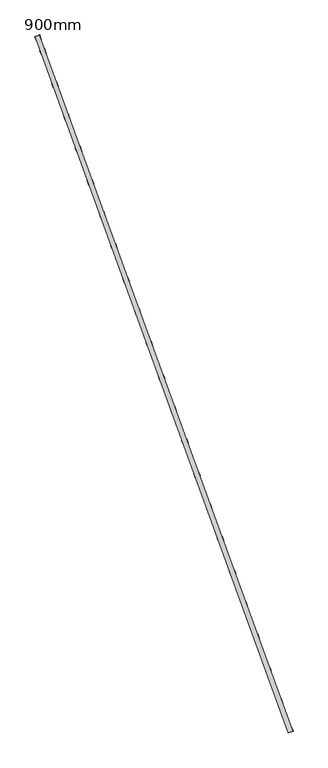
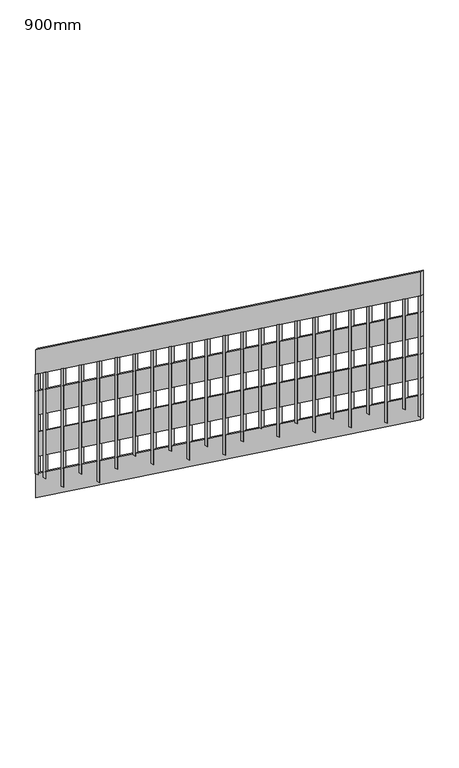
"""IFC4 building model written with IfcOpenShell, lengths in millimetres: railing geometry, 900mm."""

from ifc_helpers import new_model, si_unit, frame, origin, place, context, project, spatial, polyline, outline, extrude, source, transform, mapped, element, save


def railing_900mm_28b1f124(model_context):
    return source(origin(), model_context, "Body", "SweptSolid", [
        extrude(outline(polyline([(94.72, -148.0), (0.0, 0.0), (3561.7972992, 0.0), (3656.5172991, -148.0), (94.72, -148.0)])), frame((24325.4518631, 10549.1529963, 4984.2846666), z_axis=(0.93969262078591, 0.3420201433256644, 0.0), x_axis=(0.2880737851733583, -0.7914762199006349, 0.5390536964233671)), (0.0, 0.0, 1.0), 19.0),
        extrude(outline(polyline([(94.72, -148.0), (0.0, 0.0), (3561.7972992, 0.0), (3656.5172991, -148.0), (94.72, -148.0)])), frame((24325.4518631, 10549.1529963, 4684.2846666), z_axis=(0.93969262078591, 0.34202014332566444, 0.0), x_axis=(0.2880737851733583, -0.7914762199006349, 0.5390536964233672)), (0.0, 0.0, 1.0), 19.0),
        extrude(outline(polyline([(94.72, -148.0), (0.0, 0.0), (3561.7972992, 0.0), (3656.5172991, -148.0), (94.72, -148.0)])), frame((24325.4518631, 10549.1529963, 4384.2846666), z_axis=(0.93969262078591, 0.34202014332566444, 0.0), x_axis=(0.2880737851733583, -0.7914762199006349, 0.5390536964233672)), (0.0, 0.0, 1.0), 19.0),
        extrude(outline(polyline([(94.72, -148.0), (0.0, 0.0), (3561.7972992, 0.0), (3656.5172991, -148.0), (94.72, -148.0)])), frame((24325.4518631, 10549.1529963, 4084.2846666), z_axis=(0.93969262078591, 0.34202014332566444, 0.0), x_axis=(0.2880737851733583, -0.7914762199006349, 0.5390536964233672)), (0.0, 0.0, 1.0), 19.0),
        extrude(outline(polyline([(106.4, 0.0), (901.0846666, 0.0), (901.0846666, -20.0), (93.6, -20.0), (106.4, 0.0)])), frame((25303.1596267, 7861.4610908, 6921.0846666), z_axis=(0.9396926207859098, 0.34202014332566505, 0.0), x_axis=(0.0, 0.0, -1.0)), (0.0, 0.0, 1.0), 20.0),
        extrude(outline(polyline([(106.4, 0.0), (971.4846666, 0.0), (971.4846666, -20.0), (93.6, -20.0), (106.4, 0.0)])), frame((25255.2768066, 7993.0180577, 6831.4846666), z_axis=(0.9396926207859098, 0.34202014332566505, 0.0), x_axis=(0.0, 0.0, -1.0)), (0.0, 0.0, 1.0), 20.0),
        extrude(outline(polyline([(106.4, 0.0), (881.8846666, 0.0), (881.8846666, -20.0), (93.6, -20.0), (106.4, 0.0)])), frame((25207.3939866, 8124.5750246, 6741.8846666), z_axis=(0.9396926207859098, 0.34202014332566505, 0.0), x_axis=(0.0, 0.0, -1.0)), (0.0, 0.0, 1.0), 20.0),
        extrude(outline(polyline([(106.4, 0.0), (952.2846666, 0.0), (952.2846666, -20.0), (93.6, -20.0), (106.4, 0.0)])), frame((25159.5111665, 8256.1319915, 6652.2846666), z_axis=(0.9396926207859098, 0.34202014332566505, 0.0), x_axis=(0.0, 0.0, -1.0)), (0.0, 0.0, 1.0), 20.0),
        extrude(outline(polyline([(106.4, 0.0), (862.6846666, 0.0), (862.6846666, -20.0), (93.6, -20.0), (106.4, 0.0)])), frame((25111.6283464, 8387.6889584, 6562.6846666), z_axis=(0.9396926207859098, 0.34202014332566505, 0.0), x_axis=(0.0, 0.0, -1.0)), (0.0, 0.0, 1.0), 20.0),
        extrude(outline(polyline([(106.4, 0.0), (933.0846666, 0.0), (933.0846666, -20.0), (93.6, -20.0), (106.4, 0.0)])), frame((25063.7455264, 8519.2459253, 6473.0846666), z_axis=(0.9396926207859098, 0.34202014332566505, 0.0), x_axis=(0.0, 0.0, -1.0)), (0.0, 0.0, 1.0), 20.0),
        extrude(outline(polyline([(106.4, 0.0), (843.4846666, 0.0), (843.4846666, -20.0), (93.6, -20.0), (106.4, 0.0)])), frame((25015.8627063, 8650.8028922, 6383.4846666), z_axis=(0.9396926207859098, 0.34202014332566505, 0.0), x_axis=(0.0, 0.0, -1.0)), (0.0, 0.0, 1.0), 20.0),
        extrude(outline(polyline([(106.4, 0.0), (913.8846666, 0.0), (913.8846666, -20.0000001), (93.6, -20.0000001), (106.4, 0.0)])), frame((24967.9798863, 8782.3598592, 6293.8846666), z_axis=(0.9396926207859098, 0.34202014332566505, 0.0), x_axis=(0.0, 0.0, -1.0)), (0.0, 0.0, 1.0), 20.0),
        extrude(outline(polyline([(106.4, 0.0), (824.2846666, 0.0), (824.2846666, -20.0000001), (93.6, -20.0000001), (106.4, 0.0)])), frame((24920.0970662, 8913.9168261, 6204.2846666), z_axis=(0.9396926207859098, 0.34202014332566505, 0.0), x_axis=(0.0, 0.0, -1.0)), (0.0, 0.0, 1.0), 20.0),
        extrude(outline(polyline([(106.4, 0.0), (894.6846666, 0.0), (894.6846666, -20.0), (93.6, -20.0), (106.4, 0.0)])), frame((24872.2142461, 9045.473793, 6114.6846666), z_axis=(0.9396926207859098, 0.34202014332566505, 0.0), x_axis=(0.0, 0.0, -1.0)), (0.0, 0.0, 1.0), 20.0),
        extrude(outline(polyline([(106.4, 0.0), (965.0846666, 0.0), (965.0846666, -20.0), (93.6, -20.0), (106.4, 0.0)])), frame((24824.3314261, 9177.0307599, 6025.0846666), z_axis=(0.9396926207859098, 0.34202014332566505, 0.0), x_axis=(0.0, 0.0, -1.0)), (0.0, 0.0, 1.0), 20.0),
        extrude(outline(polyline([(106.4, 0.0), (875.4846666, 0.0), (875.4846666, -20.0), (93.6, -20.0), (106.4, 0.0)])), frame((24776.448606, 9308.5877268, 5935.4846666), z_axis=(0.9396926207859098, 0.34202014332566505, 0.0), x_axis=(0.0, 0.0, -1.0)), (0.0, 0.0, 1.0), 20.0),
        extrude(outline(polyline([(106.4, 0.0), (945.8846666, 0.0), (945.8846666, -20.0), (93.6, -20.0), (106.4, 0.0)])), frame((24728.5657859, 9440.1446937, 5845.8846666), z_axis=(0.9396926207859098, 0.34202014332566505, 0.0), x_axis=(0.0, 0.0, -1.0)), (0.0, 0.0, 1.0), 20.0),
        extrude(outline(polyline([(106.4, 0.0), (856.2846666, 0.0), (856.2846666, -20.0), (93.6, -20.0), (106.4, 0.0)])), frame((24680.6829659, 9571.7016606, 5756.2846666), z_axis=(0.9396926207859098, 0.34202014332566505, 0.0), x_axis=(0.0, 0.0, -1.0)), (0.0, 0.0, 1.0), 20.0),
        extrude(outline(polyline([(106.4, 0.0), (926.6846666, 0.0), (926.6846666, -20.0), (93.6, -20.0), (106.4, 0.0)])), frame((24632.8001458, 9703.2586275, 5666.6846666), z_axis=(0.9396926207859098, 0.34202014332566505, 0.0), x_axis=(0.0, 0.0, -1.0)), (0.0, 0.0, 1.0), 20.0),
        extrude(outline(polyline([(106.4, 0.0), (837.0846666, 0.0), (837.0846666, -20.0), (93.6, -20.0), (106.4, 0.0)])), frame((24584.9173257, 9834.8155944, 5577.0846666), z_axis=(0.9396926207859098, 0.34202014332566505, 0.0), x_axis=(0.0, 0.0, -1.0)), (0.0, 0.0, 1.0), 20.0),
        extrude(outline(polyline([(106.4, 0.0), (907.4846666, 0.0), (907.4846666, -20.0), (93.6, -20.0), (106.4, 0.0)])), frame((24537.0345057, 9966.3725613, 5487.4846666), z_axis=(0.9396926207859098, 0.34202014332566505, 0.0), x_axis=(0.0, 0.0, -1.0)), (0.0, 0.0, 1.0), 20.0),
        extrude(outline(polyline([(106.4, 0.0), (977.8846666, 0.0), (977.8846666, -20.0000001), (93.6, -20.0000001), (106.4, 0.0)])), frame((24489.1516856, 10097.9295283, 5397.8846666), z_axis=(0.9396926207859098, 0.34202014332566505, 0.0), x_axis=(0.0, 0.0, -1.0)), (0.0, 0.0, 1.0), 20.0),
        extrude(outline(polyline([(106.4, 0.0), (888.2846666, 0.0), (888.2846666, -20.0000001), (93.6, -20.0000001), (106.4, 0.0)])), frame((24441.2688655, 10229.4864952, 5308.2846666), z_axis=(0.9396926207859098, 0.34202014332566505, 0.0), x_axis=(0.0, 0.0, -1.0)), (0.0, 0.0, 1.0), 20.0),
        extrude(outline(polyline([(106.4, 0.0), (958.6846666, 0.0), (958.6846666, -20.0), (93.6, -20.0), (106.4, 0.0)])), frame((24393.3860455, 10361.0434621, 5218.6846666), z_axis=(0.9396926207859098, 0.34202014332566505, 0.0), x_axis=(0.0, 0.0, -1.0)), (0.0, 0.0, 1.0), 20.0),
        extrude(outline(polyline([(106.4, 0.0), (869.0846666, 0.0), (869.0846666, -20.0), (93.6, -20.0), (106.4, 0.0)])), frame((24345.5032254, 10492.600429, 5129.0846666), z_axis=(0.9396926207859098, 0.34202014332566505, 0.0), x_axis=(0.0, 0.0, -1.0)), (0.0, 0.0, 1.0), 20.0),
        extrude(outline(polyline([(106.4, 0.0), (977.8846666, 0.0), (977.8846666, -20.0), (93.6, -20.0), (106.4, 0.0)])), frame((25344.2020439, 7748.6979763, 6997.8846666), z_axis=(0.9396926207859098, 0.34202014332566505, 0.0), x_axis=(0.0, 0.0, -1.0)), (0.0, 0.0, 1.0), 20.0),
        extrude(outline(polyline([(106.4, 0.0), (830.6846666, 0.0), (830.6846666, -20.0), (93.6, -20.0), (106.4, 0.0)])), frame((24324.9820168, 10548.9819862, 5090.6846666), z_axis=(0.9396926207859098, 0.34202014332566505, 0.0), x_axis=(0.0, 0.0, -1.0)), (0.0, 0.0, 1.0), 20.0),
    ])


if __name__ == "__main__":
    model = new_model("IFC4")
    model_context = context("Model", 3, world=origin())
    ifc_project = project(units=[si_unit("LENGTHUNIT", "METRE", prefix="MILLI")], contexts=[model_context])
    site = spatial("IfcSite", under=ifc_project)
    building = spatial("IfcBuilding", under=site)
    placement = place(None, origin())
    railing_900mm_shape = railing_900mm_28b1f124(model_context)
    element("IfcRailing", 1, ObjectType="900mm", at=placement, inside=building, context=model_context, shape_type="MappedRepresentation", body=[
        mapped(railing_900mm_shape, transform((0.0, 0.0, 0.0), x_axis=(1.0, 0.0, 0.0), y_axis=(0.0, 1.0, 0.0), z_axis=(0.0, 0.0, 1.0))),
    ])
    save(model, "model.ifc")
